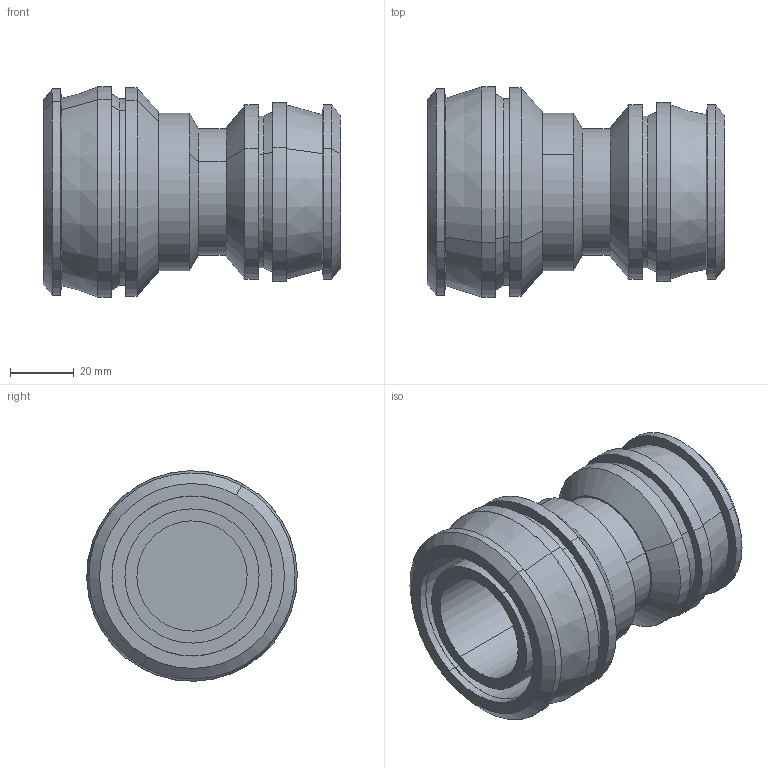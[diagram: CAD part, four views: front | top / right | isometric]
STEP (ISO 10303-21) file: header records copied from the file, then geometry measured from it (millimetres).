
FILE_DESCRIPTION(('STEP AP214'),'1');
FILE_NAME('pim0004792.stp','2015-06-17T08:23:33',('CAD-PIM'),('TransMagic, Inc.'),'TMR11sp0','TransMagic R11',' ');
FILE_SCHEMA(('AUTOMOTIVE_DESIGN'));
Length unit declared in the file: millimetre
Products named in the file (1): pim0004792
Bounding box: 93 x 65.87 x 65.87 mm (x, y, z)
Volume: 151033.8 mm3; surface area: 43985.2 mm2
Topology: 1 solids, 1 shells, 76 faces, 199 edges, 141 vertices
Faces by surface type: cylinder 34, plane 18, cone 16, bspline 8
Entity records: 3137 total; most frequent: CARTESIAN_POINT 492, DIRECTION 477, ORIENTED_EDGE 398, AXIS2_PLACEMENT_3D 210, EDGE_CURVE 199, VERTEX_POINT 141, CIRCLE 141, EDGE_LOOP 92
